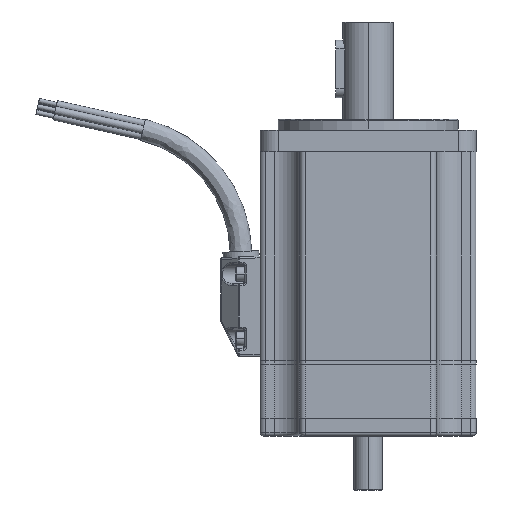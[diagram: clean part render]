
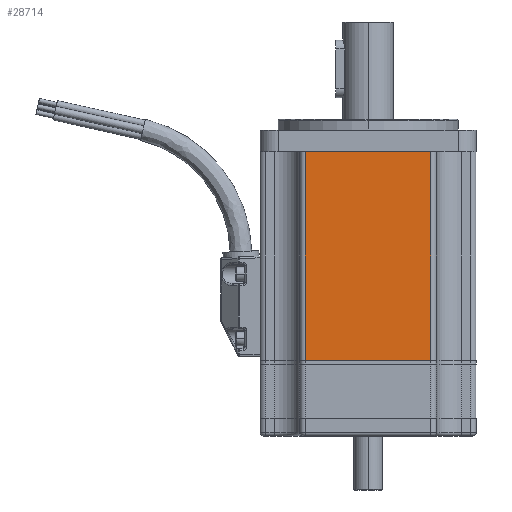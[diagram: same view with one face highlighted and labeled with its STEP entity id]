
A CAD part, left-side view. The second image highlights one B-rep face of the part: STEP entity #28714.
In plain terms, the highlighted planar face has unit normal (-1, 0, 0).
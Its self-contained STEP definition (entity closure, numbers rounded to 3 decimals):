
#2610 = LINE ( 'NONE', #13888, #9184 ) ;
#2763 = CARTESIAN_POINT ( 'NONE',  ( -29.975, -17.475, -64. ) ) ;
#3753 = VERTEX_POINT ( 'NONE', #10204 ) ;
#3914 = CARTESIAN_POINT ( 'NONE',  ( -29.975, 17.475, -64. ) ) ;
#6143 = ORIENTED_EDGE ( 'NONE', *, *, #7374, .F. ) ;
#7374 = EDGE_CURVE ( 'NONE', #3753, #22881, #2610, .T. ) ;
#7980 = ORIENTED_EDGE ( 'NONE', *, *, #27901, .T. ) ;
#9101 = DIRECTION ( 'NONE',  ( 0., 1., 0. ) ) ;
#9184 = VECTOR ( 'NONE', #25128, 1000. ) ;
#10204 = CARTESIAN_POINT ( 'NONE',  ( -29.975, -17.475, -64. ) ) ;
#11709 = ORIENTED_EDGE ( 'NONE', *, *, #17945, .T. ) ;
#13275 = CARTESIAN_POINT ( 'NONE',  ( -29.975, -17.475, -64. ) ) ;
#13888 = CARTESIAN_POINT ( 'NONE',  ( -29.975, -17.475, -64. ) ) ;
#14038 = DIRECTION ( 'NONE',  ( 0., 0., 1. ) ) ;
#14552 = VERTEX_POINT ( 'NONE', #30235 ) ;
#14842 = VECTOR ( 'NONE', #29530, 1000. ) ;
#15177 = LINE ( 'NONE', #18292, #14842 ) ;
#15503 = FACE_OUTER_BOUND ( 'NONE', #19124, .T. ) ;
#17945 = EDGE_CURVE ( 'NONE', #3753, #24295, #28023, .T. ) ;
#18292 = CARTESIAN_POINT ( 'NONE',  ( -29.975, 17.475, -64. ) ) ;
#18639 = PLANE ( 'NONE',  #36421 ) ;
#19124 = EDGE_LOOP ( 'NONE', ( #7980, #24725, #6143, #11709 ) ) ;
#22881 = VERTEX_POINT ( 'NONE', #3914 ) ;
#23135 = LINE ( 'NONE', #34383, #28649 ) ;
#24295 = VERTEX_POINT ( 'NONE', #29529 ) ;
#24524 = DIRECTION ( 'NONE',  ( 1., 0., 0. ) ) ;
#24725 = ORIENTED_EDGE ( 'NONE', *, *, #35677, .F. ) ;
#25128 = DIRECTION ( 'NONE',  ( 0., 1., 0. ) ) ;
#27901 = EDGE_CURVE ( 'NONE', #24295, #14552, #23135, .T. ) ;
#28023 = LINE ( 'NONE', #2763, #30068 ) ;
#28649 = VECTOR ( 'NONE', #9101, 1000. ) ;
#28714 = ADVANCED_FACE ( 'NONE', ( #15503 ), #18639, .F. ) ;
#29529 = CARTESIAN_POINT ( 'NONE',  ( -29.975, -17.475, -6. ) ) ;
#29530 = DIRECTION ( 'NONE',  ( 0., 0., 1. ) ) ;
#30068 = VECTOR ( 'NONE', #14038, 1000. ) ;
#30235 = CARTESIAN_POINT ( 'NONE',  ( -29.975, 17.475, -6. ) ) ;
#34383 = CARTESIAN_POINT ( 'NONE',  ( -29.975, -17.475, -6. ) ) ;
#35677 = EDGE_CURVE ( 'NONE', #22881, #14552, #15177, .T. ) ;
#35782 = DIRECTION ( 'NONE',  ( 0., 1., 0. ) ) ;
#36421 = AXIS2_PLACEMENT_3D ( 'NONE', #13275, #24524, #35782 ) ;
